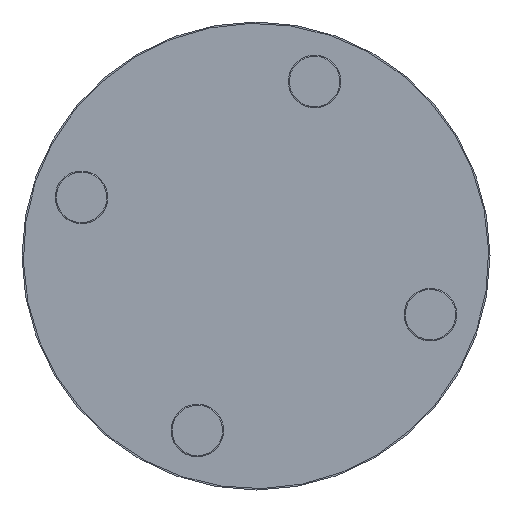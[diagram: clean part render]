
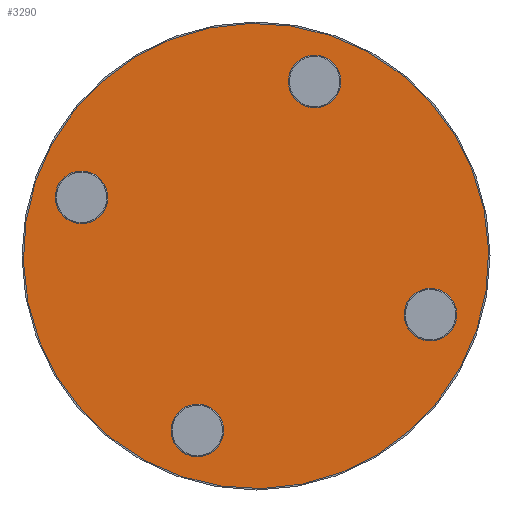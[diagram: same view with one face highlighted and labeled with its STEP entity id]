
A CAD part, front view. The second image highlights one B-rep face of the part: STEP entity #3290.
In plain terms, the highlighted planar face has unit normal (0, -1, 0).
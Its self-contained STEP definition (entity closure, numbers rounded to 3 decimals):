
#45 = CARTESIAN_POINT ( 'NONE',  ( 0., -1.5, 0. ) ) ;
#114 = DIRECTION ( 'NONE',  ( 0., 0., 1. ) ) ;
#150 = AXIS2_PLACEMENT_3D ( 'NONE', #1300, #4944, #1864 ) ;
#198 = DIRECTION ( 'NONE',  ( 0., 1., 0. ) ) ;
#379 = FACE_BOUND ( 'NONE', #3934, .T. ) ;
#432 = ORIENTED_EDGE ( 'NONE', *, *, #5980, .T. ) ;
#464 = CIRCLE ( 'NONE', #150, 3.4 ) ;
#547 = DIRECTION ( 'NONE',  ( 0., 1., 0. ) ) ;
#569 = CIRCLE ( 'NONE', #1201, 3.4 ) ;
#643 = DIRECTION ( 'NONE',  ( 0., 1., 0. ) ) ;
#679 = CIRCLE ( 'NONE', #4621, 3.4 ) ;
#681 = AXIS2_PLACEMENT_3D ( 'NONE', #2119, #198, #6331 ) ;
#752 = ORIENTED_EDGE ( 'NONE', *, *, #2923, .F. ) ;
#773 = CARTESIAN_POINT ( 'NONE',  ( 0., -1.5, 35. ) ) ;
#804 = DIRECTION ( 'NONE',  ( 0., 0., 1. ) ) ;
#811 = DIRECTION ( 'NONE',  ( 0., 0., 1. ) ) ;
#993 = ORIENTED_EDGE ( 'NONE', *, *, #2059, .T. ) ;
#1077 = AXIS2_PLACEMENT_3D ( 'NONE', #5616, #547, #2545 ) ;
#1110 = CARTESIAN_POINT ( 'NONE',  ( -35., -1.5, 3.4 ) ) ;
#1201 = AXIS2_PLACEMENT_3D ( 'NONE', #4663, #4725, #3229 ) ;
#1296 = CARTESIAN_POINT ( 'NONE',  ( 35., -1.5, 3.4 ) ) ;
#1300 = CARTESIAN_POINT ( 'NONE',  ( 0., -1.5, -35. ) ) ;
#1339 = FACE_BOUND ( 'NONE', #3898, .T. ) ;
#1404 = FACE_BOUND ( 'NONE', #4429, .T. ) ;
#1668 = EDGE_CURVE ( 'NONE', #4679, #3309, #464, .T. ) ;
#1677 = VERTEX_POINT ( 'NONE', #6345 ) ;
#1727 = CIRCLE ( 'NONE', #681, 3.4 ) ;
#1773 = VERTEX_POINT ( 'NONE', #4838 ) ;
#1794 = DIRECTION ( 'NONE',  ( 0., 1., 0. ) ) ;
#1816 = EDGE_LOOP ( 'NONE', ( #5797, #5933 ) ) ;
#1831 = VERTEX_POINT ( 'NONE', #6476 ) ;
#1864 = DIRECTION ( 'NONE',  ( 0., 0., 1. ) ) ;
#2059 = EDGE_CURVE ( 'NONE', #3746, #3587, #679, .T. ) ;
#2072 = DIRECTION ( 'NONE',  ( 0., 0., 1. ) ) ;
#2119 = CARTESIAN_POINT ( 'NONE',  ( 35., -1.5, 0. ) ) ;
#2149 = ORIENTED_EDGE ( 'NONE', *, *, #4867, .T. ) ;
#2406 = DIRECTION ( 'NONE',  ( 0., 0., 1. ) ) ;
#2407 = DIRECTION ( 'NONE',  ( 0., 1., 0. ) ) ;
#2545 = DIRECTION ( 'NONE',  ( 0., 0., 1. ) ) ;
#2568 = DIRECTION ( 'NONE',  ( 0., 0., 1. ) ) ;
#2900 = CIRCLE ( 'NONE', #5877, 44.25 ) ;
#2923 = EDGE_CURVE ( 'NONE', #1773, #4862, #5555, .T. ) ;
#3099 = AXIS2_PLACEMENT_3D ( 'NONE', #5588, #5644, #2072 ) ;
#3144 = AXIS2_PLACEMENT_3D ( 'NONE', #6479, #2407, #811 ) ;
#3229 = DIRECTION ( 'NONE',  ( 0., 0., 1. ) ) ;
#3290 = ADVANCED_FACE ( 'NONE', ( #3345, #1404, #379, #1339, #5379 ), #4350, .F. ) ;
#3309 = VERTEX_POINT ( 'NONE', #3380 ) ;
#3345 = FACE_BOUND ( 'NONE', #1816, .T. ) ;
#3363 = EDGE_LOOP ( 'NONE', ( #752, #6379 ) ) ;
#3380 = CARTESIAN_POINT ( 'NONE',  ( 0., -1.5, -38.4 ) ) ;
#3403 = DIRECTION ( 'NONE',  ( 0., 1., 0. ) ) ;
#3483 = CARTESIAN_POINT ( 'NONE',  ( -35., -1.5, -3.4 ) ) ;
#3587 = VERTEX_POINT ( 'NONE', #3483 ) ;
#3645 = ORIENTED_EDGE ( 'NONE', *, *, #4075, .T. ) ;
#3694 = DIRECTION ( 'NONE',  ( 0., 1., 0. ) ) ;
#3746 = VERTEX_POINT ( 'NONE', #1110 ) ;
#3800 = DIRECTION ( 'NONE',  ( 0., 0., 1. ) ) ;
#3851 = CIRCLE ( 'NONE', #5554, 3.4 ) ;
#3898 = EDGE_LOOP ( 'NONE', ( #993, #2149 ) ) ;
#3904 = EDGE_CURVE ( 'NONE', #3309, #4679, #3958, .T. ) ;
#3934 = EDGE_LOOP ( 'NONE', ( #4362, #3645 ) ) ;
#3958 = CIRCLE ( 'NONE', #1077, 3.4 ) ;
#4010 = CARTESIAN_POINT ( 'NONE',  ( 35., -1.5, -3.4 ) ) ;
#4075 = EDGE_CURVE ( 'NONE', #1677, #1831, #3851, .T. ) ;
#4101 = ORIENTED_EDGE ( 'NONE', *, *, #4269, .T. ) ;
#4179 = CARTESIAN_POINT ( 'NONE',  ( 0., -1.5, -31.6 ) ) ;
#4184 = AXIS2_PLACEMENT_3D ( 'NONE', #5369, #3403, #804 ) ;
#4269 = EDGE_CURVE ( 'NONE', #5622, #6468, #6197, .T. ) ;
#4350 = PLANE ( 'NONE',  #3144 ) ;
#4362 = ORIENTED_EDGE ( 'NONE', *, *, #5950, .T. ) ;
#4389 = AXIS2_PLACEMENT_3D ( 'NONE', #5476, #1794, #2406 ) ;
#4429 = EDGE_LOOP ( 'NONE', ( #432, #4101 ) ) ;
#4525 = EDGE_CURVE ( 'NONE', #4862, #1773, #2900, .T. ) ;
#4621 = AXIS2_PLACEMENT_3D ( 'NONE', #5668, #6137, #2568 ) ;
#4663 = CARTESIAN_POINT ( 'NONE',  ( 0., -1.5, 35. ) ) ;
#4679 = VERTEX_POINT ( 'NONE', #4179 ) ;
#4725 = DIRECTION ( 'NONE',  ( 0., 1., 0. ) ) ;
#4805 = CIRCLE ( 'NONE', #4184, 3.4 ) ;
#4838 = CARTESIAN_POINT ( 'NONE',  ( 0., -1.5, 44.25 ) ) ;
#4862 = VERTEX_POINT ( 'NONE', #4863 ) ;
#4863 = CARTESIAN_POINT ( 'NONE',  ( 0., -1.5, -44.25 ) ) ;
#4867 = EDGE_CURVE ( 'NONE', #3587, #3746, #4805, .T. ) ;
#4944 = DIRECTION ( 'NONE',  ( 0., 1., 0. ) ) ;
#5369 = CARTESIAN_POINT ( 'NONE',  ( -35., -1.5, 0. ) ) ;
#5379 = FACE_OUTER_BOUND ( 'NONE', #3363, .T. ) ;
#5476 = CARTESIAN_POINT ( 'NONE',  ( 35., -1.5, 0. ) ) ;
#5554 = AXIS2_PLACEMENT_3D ( 'NONE', #773, #643, #114 ) ;
#5555 = CIRCLE ( 'NONE', #3099, 44.25 ) ;
#5588 = CARTESIAN_POINT ( 'NONE',  ( 0., -1.5, 0. ) ) ;
#5616 = CARTESIAN_POINT ( 'NONE',  ( 0., -1.5, -35. ) ) ;
#5622 = VERTEX_POINT ( 'NONE', #4010 ) ;
#5644 = DIRECTION ( 'NONE',  ( 0., 1., 0. ) ) ;
#5668 = CARTESIAN_POINT ( 'NONE',  ( -35., -1.5, 0. ) ) ;
#5797 = ORIENTED_EDGE ( 'NONE', *, *, #1668, .T. ) ;
#5877 = AXIS2_PLACEMENT_3D ( 'NONE', #45, #3694, #3800 ) ;
#5933 = ORIENTED_EDGE ( 'NONE', *, *, #3904, .T. ) ;
#5950 = EDGE_CURVE ( 'NONE', #1831, #1677, #569, .T. ) ;
#5980 = EDGE_CURVE ( 'NONE', #6468, #5622, #1727, .T. ) ;
#6137 = DIRECTION ( 'NONE',  ( 0., 1., 0. ) ) ;
#6197 = CIRCLE ( 'NONE', #4389, 3.4 ) ;
#6331 = DIRECTION ( 'NONE',  ( 0., 0., 1. ) ) ;
#6345 = CARTESIAN_POINT ( 'NONE',  ( 0., -1.5, 31.6 ) ) ;
#6379 = ORIENTED_EDGE ( 'NONE', *, *, #4525, .F. ) ;
#6468 = VERTEX_POINT ( 'NONE', #1296 ) ;
#6476 = CARTESIAN_POINT ( 'NONE',  ( 0., -1.5, 38.4 ) ) ;
#6479 = CARTESIAN_POINT ( 'NONE',  ( 0., -1.5, 0. ) ) ;
